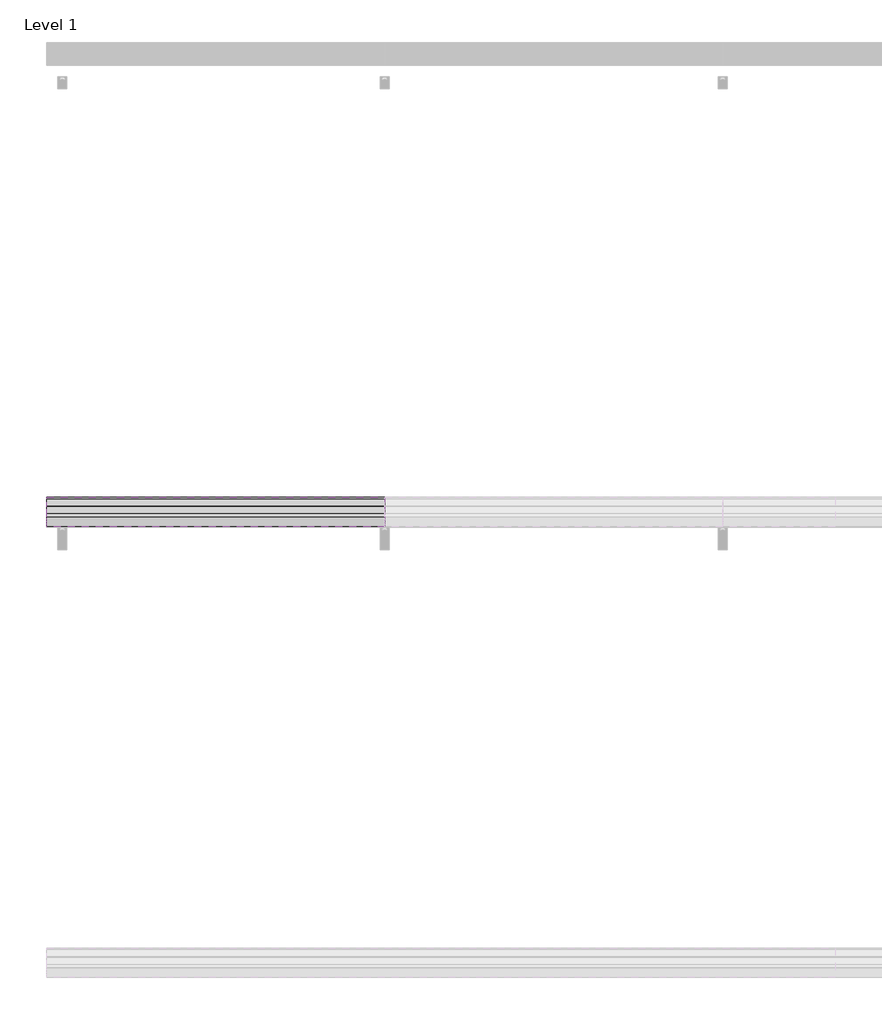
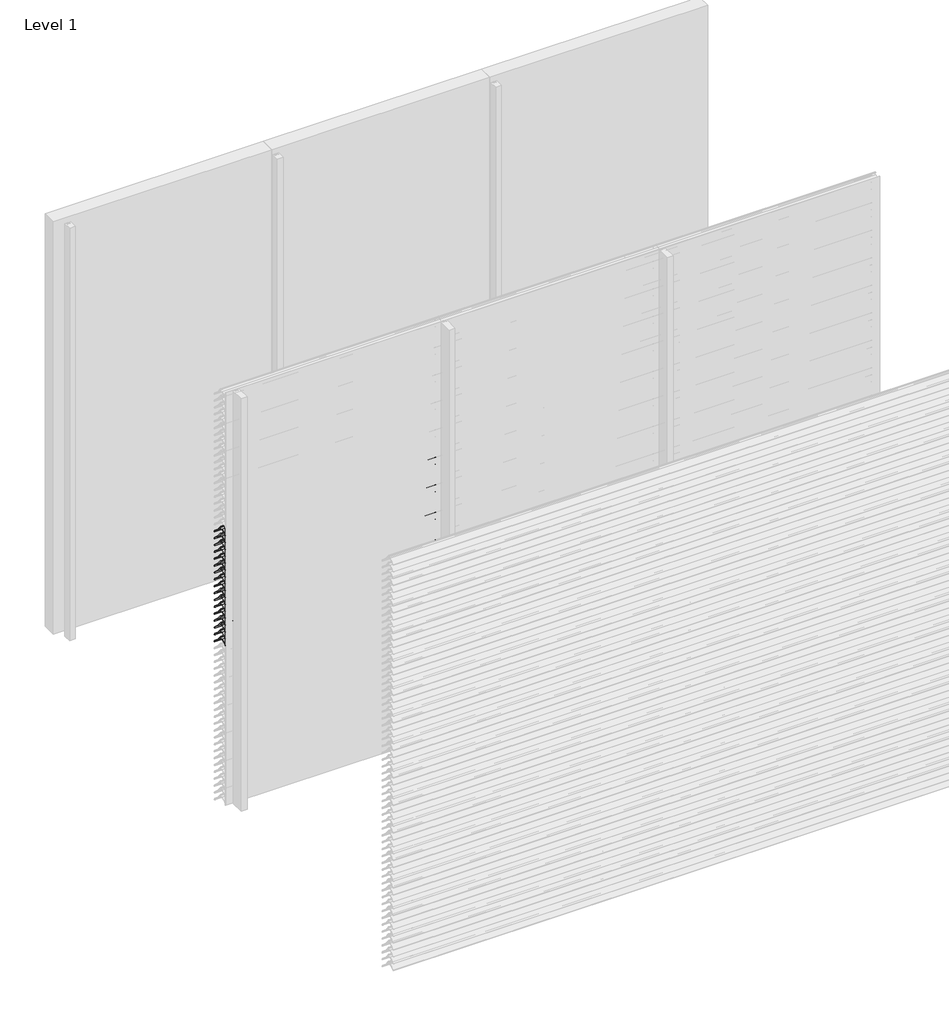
# One storey, part 59 of 173: 17 proxies.
"""IFC4 building model written with IfcOpenShell, lengths in millimetres."""

from ifc_helpers import new_model, si_unit, point, frame, frame_2d, origin, place, context, project, spatial, polyline, circle_curve, trimmed, segment, composite_curve, outline, extrude, element, save

model = new_model("IFC4")

# Units and contexts
model_context = context("Model", 3, world=origin())
ifc_project = project(units=[si_unit("LENGTHUNIT", "METRE", prefix="MILLI")], contexts=[model_context])

# Site, building, storey
site = spatial("IfcSite", under=ifc_project)
building = spatial("IfcBuilding", under=site)
storey = spatial("IfcBuildingStorey", under=building, Name="Level 1", Elevation=0.0)

# Proxies
placement = place(None, origin())
element("IfcBuildingElementProxy", 1, Name="Wall Sweeps", at=placement, inside=storey, context=model_context, shape_type="SweptSolid", body=[
    extrude(outline(composite_curve([segment(polyline([(-35998.0, 1959.1474905), (-35998.0, 1961.6227417)]), True, "CONTINUOUS"), segment(trimmed(circle_curve(frame_2d((-35951.2682172, 1916.2200208)), 65.1557103), [point((-35998.0, 1961.6227417))], [point((-35954.4014323, 1981.3003524))], False, "CARTESIAN"), True, "CONTINUOUS"), segment(polyline([(-35954.4014323, 1981.3003524), (-35934.8315836, 1981.3003524)]), True, "CONTINUOUS"), segment(trimmed(circle_curve(frame_2d((-35732.7329489, 2128.5533172)), 250.0545817), [point((-35934.8315836, 1981.3003524))], [point((-35941.4452143, 1990.8344583))], False, "CARTESIAN"), True, "CONTINUOUS"), segment(trimmed(circle_curve(frame_2d((-35953.2981792, 1985.1737835)), 13.1352966), [point((-35941.4452143, 1990.8344583))], [point((-35953.8171475, 1998.298824))], True, "CARTESIAN"), True, "CONTINUOUS"), segment(polyline([(-35953.8171475, 1998.298824), (-35953.8171475, 2000.0)]), True, "CONTINUOUS"), segment(trimmed(circle_curve(frame_2d((-35953.2981792, 1985.1737835)), 14.8352966), [point((-35953.8171475, 2000.0))], [point((-35939.9637661, 1991.6760487))], False, "CARTESIAN"), True, "CONTINUOUS"), segment(trimmed(circle_curve(frame_2d((-35732.7329489, 2128.5533172)), 248.3545817), [point((-35939.9637661, 1991.6760487))], [point((-35873.8787895, 1924.2059416))], True, "CARTESIAN"), True, "CONTINUOUS"), segment(trimmed(circle_curve(frame_2d((-35883.8147537, 1911.6649442)), 16.0), [point((-35873.8787895, 1924.2059416))], [point((-35867.8648347, 1910.4))], False, "CARTESIAN"), True, "CONTINUOUS"), segment(polyline([(-35867.8648347, 1910.4), (-35869.6712069, 1910.4)]), True, "CONTINUOUS"), segment(trimmed(circle_curve(frame_2d((-35883.8147537, 1911.6649442)), 14.2), [point((-35869.6712069, 1910.4))], [point((-35874.9518628, 1922.7594998))], True, "CARTESIAN"), True, "CONTINUOUS"), segment(trimmed(circle_curve(frame_2d((-35732.7329489, 2128.5533172)), 250.1545817), [point((-35874.9518628, 1922.7594998))], [point((-35933.7064024, 1979.6003524))], False, "CARTESIAN"), True, "CONTINUOUS"), segment(polyline([(-35933.7064024, 1979.6003524), (-35954.3602632, 1979.6003524)]), True, "CONTINUOUS"), segment(trimmed(circle_curve(frame_2d((-35951.2682172, 1916.2200208)), 63.4557103), [point((-35954.3602632, 1979.6003524))], [point((-35998.0, 1959.1474905))], True, "CARTESIAN"), True, "CONTINUOUS")], self_intersect=False)), frame((0.0, 0.0, 0.0), z_axis=(1.0, 0.0, 0.0), x_axis=(0.0, 1.0, 0.0)), (0.0, 0.0, 1.0), 1500.0),
])
element("IfcBuildingElementProxy", 2, Name="Wall Sweeps", at=placement, inside=storey, context=model_context, shape_type="SweptSolid", body=[
    extrude(outline(composite_curve([segment(polyline([(-35998.0, 1909.1474905), (-35998.0, 1911.6227417)]), True, "CONTINUOUS"), segment(trimmed(circle_curve(frame_2d((-35951.2682172, 1866.2200208)), 65.1557103), [point((-35998.0, 1911.6227417))], [point((-35954.4014323, 1931.3003524))], False, "CARTESIAN"), True, "CONTINUOUS"), segment(polyline([(-35954.4014323, 1931.3003524), (-35934.8315836, 1931.3003524)]), True, "CONTINUOUS"), segment(trimmed(circle_curve(frame_2d((-35732.7329489, 2078.5533172)), 250.0545817), [point((-35934.8315836, 1931.3003524))], [point((-35941.4452143, 1940.8344583))], False, "CARTESIAN"), True, "CONTINUOUS"), segment(trimmed(circle_curve(frame_2d((-35953.2981792, 1935.1737835)), 13.1352966), [point((-35941.4452143, 1940.8344583))], [point((-35953.8171475, 1948.298824))], True, "CARTESIAN"), True, "CONTINUOUS"), segment(polyline([(-35953.8171475, 1948.298824), (-35953.8171475, 1950.0)]), True, "CONTINUOUS"), segment(trimmed(circle_curve(frame_2d((-35953.2981792, 1935.1737835)), 14.8352966), [point((-35953.8171475, 1950.0))], [point((-35939.9637661, 1941.6760487))], False, "CARTESIAN"), True, "CONTINUOUS"), segment(trimmed(circle_curve(frame_2d((-35732.7329489, 2078.5533172)), 248.3545817), [point((-35939.9637661, 1941.6760487))], [point((-35873.8787895, 1874.2059416))], True, "CARTESIAN"), True, "CONTINUOUS"), segment(trimmed(circle_curve(frame_2d((-35883.8147537, 1861.6649442)), 16.0), [point((-35873.8787895, 1874.2059416))], [point((-35867.8648347, 1860.4))], False, "CARTESIAN"), True, "CONTINUOUS"), segment(polyline([(-35867.8648347, 1860.4), (-35869.6712069, 1860.4)]), True, "CONTINUOUS"), segment(trimmed(circle_curve(frame_2d((-35883.8147537, 1861.6649442)), 14.2), [point((-35869.6712069, 1860.4))], [point((-35874.9518628, 1872.7594998))], True, "CARTESIAN"), True, "CONTINUOUS"), segment(trimmed(circle_curve(frame_2d((-35732.7329489, 2078.5533172)), 250.1545817), [point((-35874.9518628, 1872.7594998))], [point((-35933.7064024, 1929.6003524))], False, "CARTESIAN"), True, "CONTINUOUS"), segment(polyline([(-35933.7064024, 1929.6003524), (-35954.3602632, 1929.6003524)]), True, "CONTINUOUS"), segment(trimmed(circle_curve(frame_2d((-35951.2682172, 1866.2200208)), 63.4557103), [point((-35954.3602632, 1929.6003524))], [point((-35998.0, 1909.1474905))], True, "CARTESIAN"), True, "CONTINUOUS")], self_intersect=False)), frame((0.0, 0.0, 0.0), z_axis=(1.0, 0.0, 0.0), x_axis=(0.0, 1.0, 0.0)), (0.0, 0.0, 1.0), 1500.0),
])
element("IfcBuildingElementProxy", 3, Name="Wall Sweeps", at=placement, inside=storey, context=model_context, shape_type="SweptSolid", body=[
    extrude(outline(composite_curve([segment(polyline([(-35998.0, 1859.1474905), (-35998.0, 1861.6227417)]), True, "CONTINUOUS"), segment(trimmed(circle_curve(frame_2d((-35951.2682172, 1816.2200208)), 65.1557103), [point((-35998.0, 1861.6227417))], [point((-35954.4014323, 1881.3003524))], False, "CARTESIAN"), True, "CONTINUOUS"), segment(polyline([(-35954.4014323, 1881.3003524), (-35934.8315836, 1881.3003524)]), True, "CONTINUOUS"), segment(trimmed(circle_curve(frame_2d((-35732.7329489, 2028.5533172)), 250.0545817), [point((-35934.8315836, 1881.3003524))], [point((-35941.4452143, 1890.8344583))], False, "CARTESIAN"), True, "CONTINUOUS"), segment(trimmed(circle_curve(frame_2d((-35953.2981792, 1885.1737835)), 13.1352966), [point((-35941.4452143, 1890.8344583))], [point((-35953.8171475, 1898.298824))], True, "CARTESIAN"), True, "CONTINUOUS"), segment(polyline([(-35953.8171475, 1898.298824), (-35953.8171475, 1900.0)]), True, "CONTINUOUS"), segment(trimmed(circle_curve(frame_2d((-35953.2981792, 1885.1737835)), 14.8352966), [point((-35953.8171475, 1900.0))], [point((-35939.9637661, 1891.6760487))], False, "CARTESIAN"), True, "CONTINUOUS"), segment(trimmed(circle_curve(frame_2d((-35732.7329489, 2028.5533172)), 248.3545817), [point((-35939.9637661, 1891.6760487))], [point((-35873.8787895, 1824.2059416))], True, "CARTESIAN"), True, "CONTINUOUS"), segment(trimmed(circle_curve(frame_2d((-35883.8147537, 1811.6649442)), 16.0), [point((-35873.8787895, 1824.2059416))], [point((-35867.8648347, 1810.4))], False, "CARTESIAN"), True, "CONTINUOUS"), segment(polyline([(-35867.8648347, 1810.4), (-35869.6712069, 1810.4)]), True, "CONTINUOUS"), segment(trimmed(circle_curve(frame_2d((-35883.8147537, 1811.6649442)), 14.2), [point((-35869.6712069, 1810.4))], [point((-35874.9518628, 1822.7594998))], True, "CARTESIAN"), True, "CONTINUOUS"), segment(trimmed(circle_curve(frame_2d((-35732.7329489, 2028.5533172)), 250.1545817), [point((-35874.9518628, 1822.7594998))], [point((-35933.7064024, 1879.6003524))], False, "CARTESIAN"), True, "CONTINUOUS"), segment(polyline([(-35933.7064024, 1879.6003524), (-35954.3602632, 1879.6003524)]), True, "CONTINUOUS"), segment(trimmed(circle_curve(frame_2d((-35951.2682172, 1816.2200208)), 63.4557103), [point((-35954.3602632, 1879.6003524))], [point((-35998.0, 1859.1474905))], True, "CARTESIAN"), True, "CONTINUOUS")], self_intersect=False)), frame((0.0, 0.0, 0.0), z_axis=(1.0, 0.0, 0.0), x_axis=(0.0, 1.0, 0.0)), (0.0, 0.0, 1.0), 1500.0),
])
element("IfcBuildingElementProxy", 4, Name="Wall Sweeps", at=placement, inside=storey, context=model_context, shape_type="SweptSolid", body=[
    extrude(outline(composite_curve([segment(polyline([(-35998.0, 1809.1474905), (-35998.0, 1811.6227417)]), True, "CONTINUOUS"), segment(trimmed(circle_curve(frame_2d((-35951.2682172, 1766.2200208)), 65.1557103), [point((-35998.0, 1811.6227417))], [point((-35954.4014323, 1831.3003524))], False, "CARTESIAN"), True, "CONTINUOUS"), segment(polyline([(-35954.4014323, 1831.3003524), (-35934.8315836, 1831.3003524)]), True, "CONTINUOUS"), segment(trimmed(circle_curve(frame_2d((-35732.7329489, 1978.5533172)), 250.0545817), [point((-35934.8315836, 1831.3003524))], [point((-35941.4452143, 1840.8344583))], False, "CARTESIAN"), True, "CONTINUOUS"), segment(trimmed(circle_curve(frame_2d((-35953.2981792, 1835.1737835)), 13.1352966), [point((-35941.4452143, 1840.8344583))], [point((-35953.8171475, 1848.298824))], True, "CARTESIAN"), True, "CONTINUOUS"), segment(polyline([(-35953.8171475, 1848.298824), (-35953.8171475, 1850.0)]), True, "CONTINUOUS"), segment(trimmed(circle_curve(frame_2d((-35953.2981792, 1835.1737835)), 14.8352966), [point((-35953.8171475, 1850.0))], [point((-35939.9637661, 1841.6760487))], False, "CARTESIAN"), True, "CONTINUOUS"), segment(trimmed(circle_curve(frame_2d((-35732.7329489, 1978.5533172)), 248.3545817), [point((-35939.9637661, 1841.6760487))], [point((-35873.8787895, 1774.2059416))], True, "CARTESIAN"), True, "CONTINUOUS"), segment(trimmed(circle_curve(frame_2d((-35883.8147537, 1761.6649442)), 16.0), [point((-35873.8787895, 1774.2059416))], [point((-35867.8648347, 1760.4))], False, "CARTESIAN"), True, "CONTINUOUS"), segment(polyline([(-35867.8648347, 1760.4), (-35869.6712069, 1760.4)]), True, "CONTINUOUS"), segment(trimmed(circle_curve(frame_2d((-35883.8147537, 1761.6649442)), 14.2), [point((-35869.6712069, 1760.4))], [point((-35874.9518628, 1772.7594998))], True, "CARTESIAN"), True, "CONTINUOUS"), segment(trimmed(circle_curve(frame_2d((-35732.7329489, 1978.5533172)), 250.1545817), [point((-35874.9518628, 1772.7594998))], [point((-35933.7064024, 1829.6003524))], False, "CARTESIAN"), True, "CONTINUOUS"), segment(polyline([(-35933.7064024, 1829.6003524), (-35954.3602632, 1829.6003524)]), True, "CONTINUOUS"), segment(trimmed(circle_curve(frame_2d((-35951.2682172, 1766.2200208)), 63.4557103), [point((-35954.3602632, 1829.6003524))], [point((-35998.0, 1809.1474905))], True, "CARTESIAN"), True, "CONTINUOUS")], self_intersect=False)), frame((0.0, 0.0, 0.0), z_axis=(1.0, 0.0, 0.0), x_axis=(0.0, 1.0, 0.0)), (0.0, 0.0, 1.0), 1500.0),
])
element("IfcBuildingElementProxy", 5, Name="Wall Sweeps", at=placement, inside=storey, context=model_context, shape_type="SweptSolid", body=[
    extrude(outline(composite_curve([segment(polyline([(-35998.0, 1759.1474905), (-35998.0, 1761.6227417)]), True, "CONTINUOUS"), segment(trimmed(circle_curve(frame_2d((-35951.2682172, 1716.2200208)), 65.1557103), [point((-35998.0, 1761.6227417))], [point((-35954.4014323, 1781.3003524))], False, "CARTESIAN"), True, "CONTINUOUS"), segment(polyline([(-35954.4014323, 1781.3003524), (-35934.8315836, 1781.3003524)]), True, "CONTINUOUS"), segment(trimmed(circle_curve(frame_2d((-35732.7329489, 1928.5533172)), 250.0545817), [point((-35934.8315836, 1781.3003524))], [point((-35941.4452143, 1790.8344583))], False, "CARTESIAN"), True, "CONTINUOUS"), segment(trimmed(circle_curve(frame_2d((-35953.2981792, 1785.1737835)), 13.1352966), [point((-35941.4452143, 1790.8344583))], [point((-35953.8171475, 1798.298824))], True, "CARTESIAN"), True, "CONTINUOUS"), segment(polyline([(-35953.8171475, 1798.298824), (-35953.8171475, 1800.0)]), True, "CONTINUOUS"), segment(trimmed(circle_curve(frame_2d((-35953.2981792, 1785.1737835)), 14.8352966), [point((-35953.8171475, 1800.0))], [point((-35939.9637661, 1791.6760487))], False, "CARTESIAN"), True, "CONTINUOUS"), segment(trimmed(circle_curve(frame_2d((-35732.7329489, 1928.5533172)), 248.3545817), [point((-35939.9637661, 1791.6760487))], [point((-35873.8787895, 1724.2059416))], True, "CARTESIAN"), True, "CONTINUOUS"), segment(trimmed(circle_curve(frame_2d((-35883.8147537, 1711.6649442)), 16.0), [point((-35873.8787895, 1724.2059416))], [point((-35867.8648347, 1710.4))], False, "CARTESIAN"), True, "CONTINUOUS"), segment(polyline([(-35867.8648347, 1710.4), (-35869.6712069, 1710.4)]), True, "CONTINUOUS"), segment(trimmed(circle_curve(frame_2d((-35883.8147537, 1711.6649442)), 14.2), [point((-35869.6712069, 1710.4))], [point((-35874.9518628, 1722.7594998))], True, "CARTESIAN"), True, "CONTINUOUS"), segment(trimmed(circle_curve(frame_2d((-35732.7329489, 1928.5533172)), 250.1545817), [point((-35874.9518628, 1722.7594998))], [point((-35933.7064024, 1779.6003524))], False, "CARTESIAN"), True, "CONTINUOUS"), segment(polyline([(-35933.7064024, 1779.6003524), (-35954.3602632, 1779.6003524)]), True, "CONTINUOUS"), segment(trimmed(circle_curve(frame_2d((-35951.2682172, 1716.2200208)), 63.4557103), [point((-35954.3602632, 1779.6003524))], [point((-35998.0, 1759.1474905))], True, "CARTESIAN"), True, "CONTINUOUS")], self_intersect=False)), frame((0.0, 0.0, 0.0), z_axis=(1.0, 0.0, 0.0), x_axis=(0.0, 1.0, 0.0)), (0.0, 0.0, 1.0), 1500.0),
])
element("IfcBuildingElementProxy", 6, Name="Wall Sweeps", at=placement, inside=storey, context=model_context, shape_type="SweptSolid", body=[
    extrude(outline(composite_curve([segment(polyline([(-35998.0, 1709.1474905), (-35998.0, 1711.6227417)]), True, "CONTINUOUS"), segment(trimmed(circle_curve(frame_2d((-35951.2682172, 1666.2200208)), 65.1557103), [point((-35998.0, 1711.6227417))], [point((-35954.4014323, 1731.3003524))], False, "CARTESIAN"), True, "CONTINUOUS"), segment(polyline([(-35954.4014323, 1731.3003524), (-35934.8315836, 1731.3003524)]), True, "CONTINUOUS"), segment(trimmed(circle_curve(frame_2d((-35732.7329489, 1878.5533172)), 250.0545817), [point((-35934.8315836, 1731.3003524))], [point((-35941.4452143, 1740.8344583))], False, "CARTESIAN"), True, "CONTINUOUS"), segment(trimmed(circle_curve(frame_2d((-35953.2981792, 1735.1737835)), 13.1352966), [point((-35941.4452143, 1740.8344583))], [point((-35953.8171475, 1748.298824))], True, "CARTESIAN"), True, "CONTINUOUS"), segment(polyline([(-35953.8171475, 1748.298824), (-35953.8171475, 1750.0)]), True, "CONTINUOUS"), segment(trimmed(circle_curve(frame_2d((-35953.2981792, 1735.1737835)), 14.8352966), [point((-35953.8171475, 1750.0))], [point((-35939.9637661, 1741.6760487))], False, "CARTESIAN"), True, "CONTINUOUS"), segment(trimmed(circle_curve(frame_2d((-35732.7329489, 1878.5533172)), 248.3545817), [point((-35939.9637661, 1741.6760487))], [point((-35873.8787895, 1674.2059416))], True, "CARTESIAN"), True, "CONTINUOUS"), segment(trimmed(circle_curve(frame_2d((-35883.8147537, 1661.6649442)), 16.0), [point((-35873.8787895, 1674.2059416))], [point((-35867.8648347, 1660.4))], False, "CARTESIAN"), True, "CONTINUOUS"), segment(polyline([(-35867.8648347, 1660.4), (-35869.6712069, 1660.4)]), True, "CONTINUOUS"), segment(trimmed(circle_curve(frame_2d((-35883.8147537, 1661.6649442)), 14.2), [point((-35869.6712069, 1660.4))], [point((-35874.9518628, 1672.7594998))], True, "CARTESIAN"), True, "CONTINUOUS"), segment(trimmed(circle_curve(frame_2d((-35732.7329489, 1878.5533172)), 250.1545817), [point((-35874.9518628, 1672.7594998))], [point((-35933.7064024, 1729.6003524))], False, "CARTESIAN"), True, "CONTINUOUS"), segment(polyline([(-35933.7064024, 1729.6003524), (-35954.3602632, 1729.6003524)]), True, "CONTINUOUS"), segment(trimmed(circle_curve(frame_2d((-35951.2682172, 1666.2200208)), 63.4557103), [point((-35954.3602632, 1729.6003524))], [point((-35998.0, 1709.1474905))], True, "CARTESIAN"), True, "CONTINUOUS")], self_intersect=False)), frame((0.0, 0.0, 0.0), z_axis=(1.0, 0.0, 0.0), x_axis=(0.0, 1.0, 0.0)), (0.0, 0.0, 1.0), 1500.0),
])
element("IfcBuildingElementProxy", 7, Name="Wall Sweeps", at=placement, inside=storey, context=model_context, shape_type="SweptSolid", body=[
    extrude(outline(composite_curve([segment(polyline([(-35998.0, 1659.1474905), (-35998.0, 1661.6227417)]), True, "CONTINUOUS"), segment(trimmed(circle_curve(frame_2d((-35951.2682172, 1616.2200208)), 65.1557103), [point((-35998.0, 1661.6227417))], [point((-35954.4014323, 1681.3003524))], False, "CARTESIAN"), True, "CONTINUOUS"), segment(polyline([(-35954.4014323, 1681.3003524), (-35934.8315836, 1681.3003524)]), True, "CONTINUOUS"), segment(trimmed(circle_curve(frame_2d((-35732.7329489, 1828.5533172)), 250.0545817), [point((-35934.8315836, 1681.3003524))], [point((-35941.4452143, 1690.8344583))], False, "CARTESIAN"), True, "CONTINUOUS"), segment(trimmed(circle_curve(frame_2d((-35953.2981792, 1685.1737835)), 13.1352966), [point((-35941.4452143, 1690.8344583))], [point((-35953.8171475, 1698.298824))], True, "CARTESIAN"), True, "CONTINUOUS"), segment(polyline([(-35953.8171475, 1698.298824), (-35953.8171475, 1700.0)]), True, "CONTINUOUS"), segment(trimmed(circle_curve(frame_2d((-35953.2981792, 1685.1737835)), 14.8352966), [point((-35953.8171475, 1700.0))], [point((-35939.9637661, 1691.6760487))], False, "CARTESIAN"), True, "CONTINUOUS"), segment(trimmed(circle_curve(frame_2d((-35732.7329489, 1828.5533172)), 248.3545817), [point((-35939.9637661, 1691.6760487))], [point((-35873.8787895, 1624.2059416))], True, "CARTESIAN"), True, "CONTINUOUS"), segment(trimmed(circle_curve(frame_2d((-35883.8147537, 1611.6649442)), 16.0), [point((-35873.8787895, 1624.2059416))], [point((-35867.8648347, 1610.4))], False, "CARTESIAN"), True, "CONTINUOUS"), segment(polyline([(-35867.8648347, 1610.4), (-35869.6712069, 1610.4)]), True, "CONTINUOUS"), segment(trimmed(circle_curve(frame_2d((-35883.8147537, 1611.6649442)), 14.2), [point((-35869.6712069, 1610.4))], [point((-35874.9518628, 1622.7594998))], True, "CARTESIAN"), True, "CONTINUOUS"), segment(trimmed(circle_curve(frame_2d((-35732.7329489, 1828.5533172)), 250.1545817), [point((-35874.9518628, 1622.7594998))], [point((-35933.7064024, 1679.6003524))], False, "CARTESIAN"), True, "CONTINUOUS"), segment(polyline([(-35933.7064024, 1679.6003524), (-35954.3602632, 1679.6003524)]), True, "CONTINUOUS"), segment(trimmed(circle_curve(frame_2d((-35951.2682172, 1616.2200208)), 63.4557103), [point((-35954.3602632, 1679.6003524))], [point((-35998.0, 1659.1474905))], True, "CARTESIAN"), True, "CONTINUOUS")], self_intersect=False)), frame((0.0, 0.0, 0.0), z_axis=(1.0, 0.0, 0.0), x_axis=(0.0, 1.0, 0.0)), (0.0, 0.0, 1.0), 1500.0),
])
element("IfcBuildingElementProxy", 8, Name="Wall Sweeps", at=placement, inside=storey, context=model_context, shape_type="SweptSolid", body=[
    extrude(outline(composite_curve([segment(polyline([(-35998.0, 1609.1474905), (-35998.0, 1611.6227417)]), True, "CONTINUOUS"), segment(trimmed(circle_curve(frame_2d((-35951.2682172, 1566.2200208)), 65.1557103), [point((-35998.0, 1611.6227417))], [point((-35954.4014323, 1631.3003524))], False, "CARTESIAN"), True, "CONTINUOUS"), segment(polyline([(-35954.4014323, 1631.3003524), (-35934.8315836, 1631.3003524)]), True, "CONTINUOUS"), segment(trimmed(circle_curve(frame_2d((-35732.7329489, 1778.5533172)), 250.0545817), [point((-35934.8315836, 1631.3003524))], [point((-35941.4452143, 1640.8344583))], False, "CARTESIAN"), True, "CONTINUOUS"), segment(trimmed(circle_curve(frame_2d((-35953.2981792, 1635.1737835)), 13.1352966), [point((-35941.4452143, 1640.8344583))], [point((-35953.8171475, 1648.298824))], True, "CARTESIAN"), True, "CONTINUOUS"), segment(polyline([(-35953.8171475, 1648.298824), (-35953.8171475, 1650.0)]), True, "CONTINUOUS"), segment(trimmed(circle_curve(frame_2d((-35953.2981792, 1635.1737835)), 14.8352966), [point((-35953.8171475, 1650.0))], [point((-35939.9637661, 1641.6760487))], False, "CARTESIAN"), True, "CONTINUOUS"), segment(trimmed(circle_curve(frame_2d((-35732.7329489, 1778.5533172)), 248.3545817), [point((-35939.9637661, 1641.6760487))], [point((-35873.8787895, 1574.2059416))], True, "CARTESIAN"), True, "CONTINUOUS"), segment(trimmed(circle_curve(frame_2d((-35883.8147537, 1561.6649442)), 16.0), [point((-35873.8787895, 1574.2059416))], [point((-35867.8648347, 1560.4))], False, "CARTESIAN"), True, "CONTINUOUS"), segment(polyline([(-35867.8648347, 1560.4), (-35869.6712069, 1560.4)]), True, "CONTINUOUS"), segment(trimmed(circle_curve(frame_2d((-35883.8147537, 1561.6649442)), 14.2), [point((-35869.6712069, 1560.4))], [point((-35874.9518628, 1572.7594998))], True, "CARTESIAN"), True, "CONTINUOUS"), segment(trimmed(circle_curve(frame_2d((-35732.7329489, 1778.5533172)), 250.1545817), [point((-35874.9518628, 1572.7594998))], [point((-35933.7064024, 1629.6003524))], False, "CARTESIAN"), True, "CONTINUOUS"), segment(polyline([(-35933.7064024, 1629.6003524), (-35954.3602632, 1629.6003524)]), True, "CONTINUOUS"), segment(trimmed(circle_curve(frame_2d((-35951.2682172, 1566.2200208)), 63.4557103), [point((-35954.3602632, 1629.6003524))], [point((-35998.0, 1609.1474905))], True, "CARTESIAN"), True, "CONTINUOUS")], self_intersect=False)), frame((0.0, 0.0, 0.0), z_axis=(1.0, 0.0, 0.0), x_axis=(0.0, 1.0, 0.0)), (0.0, 0.0, 1.0), 1500.0),
])
element("IfcBuildingElementProxy", 9, Name="Wall Sweeps", at=placement, inside=storey, context=model_context, shape_type="SweptSolid", body=[
    extrude(outline(composite_curve([segment(polyline([(-35998.0, 1559.1474905), (-35998.0, 1561.6227417)]), True, "CONTINUOUS"), segment(trimmed(circle_curve(frame_2d((-35951.2682172, 1516.2200208)), 65.1557103), [point((-35998.0, 1561.6227417))], [point((-35954.4014323, 1581.3003524))], False, "CARTESIAN"), True, "CONTINUOUS"), segment(polyline([(-35954.4014323, 1581.3003524), (-35934.8315836, 1581.3003524)]), True, "CONTINUOUS"), segment(trimmed(circle_curve(frame_2d((-35732.7329489, 1728.5533172)), 250.0545817), [point((-35934.8315836, 1581.3003524))], [point((-35941.4452143, 1590.8344583))], False, "CARTESIAN"), True, "CONTINUOUS"), segment(trimmed(circle_curve(frame_2d((-35953.2981792, 1585.1737835)), 13.1352966), [point((-35941.4452143, 1590.8344583))], [point((-35953.8171475, 1598.298824))], True, "CARTESIAN"), True, "CONTINUOUS"), segment(polyline([(-35953.8171475, 1598.298824), (-35953.8171475, 1600.0)]), True, "CONTINUOUS"), segment(trimmed(circle_curve(frame_2d((-35953.2981792, 1585.1737835)), 14.8352966), [point((-35953.8171475, 1600.0))], [point((-35939.9637661, 1591.6760487))], False, "CARTESIAN"), True, "CONTINUOUS"), segment(trimmed(circle_curve(frame_2d((-35732.7329489, 1728.5533172)), 248.3545817), [point((-35939.9637661, 1591.6760487))], [point((-35873.8787895, 1524.2059416))], True, "CARTESIAN"), True, "CONTINUOUS"), segment(trimmed(circle_curve(frame_2d((-35883.8147537, 1511.6649442)), 16.0), [point((-35873.8787895, 1524.2059416))], [point((-35867.8648347, 1510.4))], False, "CARTESIAN"), True, "CONTINUOUS"), segment(polyline([(-35867.8648347, 1510.4), (-35869.6712069, 1510.4)]), True, "CONTINUOUS"), segment(trimmed(circle_curve(frame_2d((-35883.8147537, 1511.6649442)), 14.2), [point((-35869.6712069, 1510.4))], [point((-35874.9518628, 1522.7594998))], True, "CARTESIAN"), True, "CONTINUOUS"), segment(trimmed(circle_curve(frame_2d((-35732.7329489, 1728.5533172)), 250.1545817), [point((-35874.9518628, 1522.7594998))], [point((-35933.7064024, 1579.6003524))], False, "CARTESIAN"), True, "CONTINUOUS"), segment(polyline([(-35933.7064024, 1579.6003524), (-35954.3602632, 1579.6003524)]), True, "CONTINUOUS"), segment(trimmed(circle_curve(frame_2d((-35951.2682172, 1516.2200208)), 63.4557103), [point((-35954.3602632, 1579.6003524))], [point((-35998.0, 1559.1474905))], True, "CARTESIAN"), True, "CONTINUOUS")], self_intersect=False)), frame((0.0, 0.0, 0.0), z_axis=(1.0, 0.0, 0.0), x_axis=(0.0, 1.0, 0.0)), (0.0, 0.0, 1.0), 1500.0),
])
element("IfcBuildingElementProxy", 10, Name="Wall Sweeps", at=placement, inside=storey, context=model_context, shape_type="SweptSolid", body=[
    extrude(outline(composite_curve([segment(polyline([(-35998.0, 1509.1474905), (-35998.0, 1511.6227417)]), True, "CONTINUOUS"), segment(trimmed(circle_curve(frame_2d((-35951.2682172, 1466.2200208)), 65.1557103), [point((-35998.0, 1511.6227417))], [point((-35954.4014323, 1531.3003524))], False, "CARTESIAN"), True, "CONTINUOUS"), segment(polyline([(-35954.4014323, 1531.3003524), (-35934.8315836, 1531.3003524)]), True, "CONTINUOUS"), segment(trimmed(circle_curve(frame_2d((-35732.7329489, 1678.5533172)), 250.0545817), [point((-35934.8315836, 1531.3003524))], [point((-35941.4452143, 1540.8344583))], False, "CARTESIAN"), True, "CONTINUOUS"), segment(trimmed(circle_curve(frame_2d((-35953.2981792, 1535.1737835)), 13.1352966), [point((-35941.4452143, 1540.8344583))], [point((-35953.8171475, 1548.298824))], True, "CARTESIAN"), True, "CONTINUOUS"), segment(polyline([(-35953.8171475, 1548.298824), (-35953.8171475, 1550.0)]), True, "CONTINUOUS"), segment(trimmed(circle_curve(frame_2d((-35953.2981792, 1535.1737835)), 14.8352966), [point((-35953.8171475, 1550.0))], [point((-35939.9637661, 1541.6760487))], False, "CARTESIAN"), True, "CONTINUOUS"), segment(trimmed(circle_curve(frame_2d((-35732.7329489, 1678.5533172)), 248.3545817), [point((-35939.9637661, 1541.6760487))], [point((-35873.8787895, 1474.2059416))], True, "CARTESIAN"), True, "CONTINUOUS"), segment(trimmed(circle_curve(frame_2d((-35883.8147537, 1461.6649442)), 16.0), [point((-35873.8787895, 1474.2059416))], [point((-35867.8648347, 1460.4))], False, "CARTESIAN"), True, "CONTINUOUS"), segment(polyline([(-35867.8648347, 1460.4), (-35869.6712069, 1460.4)]), True, "CONTINUOUS"), segment(trimmed(circle_curve(frame_2d((-35883.8147537, 1461.6649442)), 14.2), [point((-35869.6712069, 1460.4))], [point((-35874.9518628, 1472.7594998))], True, "CARTESIAN"), True, "CONTINUOUS"), segment(trimmed(circle_curve(frame_2d((-35732.7329489, 1678.5533172)), 250.1545817), [point((-35874.9518628, 1472.7594998))], [point((-35933.7064024, 1529.6003524))], False, "CARTESIAN"), True, "CONTINUOUS"), segment(polyline([(-35933.7064024, 1529.6003524), (-35954.3602632, 1529.6003524)]), True, "CONTINUOUS"), segment(trimmed(circle_curve(frame_2d((-35951.2682172, 1466.2200208)), 63.4557103), [point((-35954.3602632, 1529.6003524))], [point((-35998.0, 1509.1474905))], True, "CARTESIAN"), True, "CONTINUOUS")], self_intersect=False)), frame((0.0, 0.0, 0.0), z_axis=(1.0, 0.0, 0.0), x_axis=(0.0, 1.0, 0.0)), (0.0, 0.0, 1.0), 1500.0),
])
element("IfcBuildingElementProxy", 11, Name="Wall Sweeps", at=placement, inside=storey, context=model_context, shape_type="SweptSolid", body=[
    extrude(outline(composite_curve([segment(polyline([(-35998.0, 1459.1474905), (-35998.0, 1461.6227417)]), True, "CONTINUOUS"), segment(trimmed(circle_curve(frame_2d((-35951.2682172, 1416.2200208)), 65.1557103), [point((-35998.0, 1461.6227417))], [point((-35954.4014323, 1481.3003524))], False, "CARTESIAN"), True, "CONTINUOUS"), segment(polyline([(-35954.4014323, 1481.3003524), (-35934.8315836, 1481.3003524)]), True, "CONTINUOUS"), segment(trimmed(circle_curve(frame_2d((-35732.7329489, 1628.5533172)), 250.0545817), [point((-35934.8315836, 1481.3003524))], [point((-35941.4452143, 1490.8344583))], False, "CARTESIAN"), True, "CONTINUOUS"), segment(trimmed(circle_curve(frame_2d((-35953.2981792, 1485.1737835)), 13.1352966), [point((-35941.4452143, 1490.8344583))], [point((-35953.8171475, 1498.298824))], True, "CARTESIAN"), True, "CONTINUOUS"), segment(polyline([(-35953.8171475, 1498.298824), (-35953.8171475, 1500.0)]), True, "CONTINUOUS"), segment(trimmed(circle_curve(frame_2d((-35953.2981792, 1485.1737835)), 14.8352966), [point((-35953.8171475, 1500.0))], [point((-35939.9637661, 1491.6760487))], False, "CARTESIAN"), True, "CONTINUOUS"), segment(trimmed(circle_curve(frame_2d((-35732.7329489, 1628.5533172)), 248.3545817), [point((-35939.9637661, 1491.6760487))], [point((-35873.8787895, 1424.2059416))], True, "CARTESIAN"), True, "CONTINUOUS"), segment(trimmed(circle_curve(frame_2d((-35883.8147537, 1411.6649442)), 16.0), [point((-35873.8787895, 1424.2059416))], [point((-35867.8648347, 1410.4))], False, "CARTESIAN"), True, "CONTINUOUS"), segment(polyline([(-35867.8648347, 1410.4), (-35869.6712069, 1410.4)]), True, "CONTINUOUS"), segment(trimmed(circle_curve(frame_2d((-35883.8147537, 1411.6649442)), 14.2), [point((-35869.6712069, 1410.4))], [point((-35874.9518628, 1422.7594998))], True, "CARTESIAN"), True, "CONTINUOUS"), segment(trimmed(circle_curve(frame_2d((-35732.7329489, 1628.5533172)), 250.1545817), [point((-35874.9518628, 1422.7594998))], [point((-35933.7064024, 1479.6003524))], False, "CARTESIAN"), True, "CONTINUOUS"), segment(polyline([(-35933.7064024, 1479.6003524), (-35954.3602632, 1479.6003524)]), True, "CONTINUOUS"), segment(trimmed(circle_curve(frame_2d((-35951.2682172, 1416.2200208)), 63.4557103), [point((-35954.3602632, 1479.6003524))], [point((-35998.0, 1459.1474905))], True, "CARTESIAN"), True, "CONTINUOUS")], self_intersect=False)), frame((0.0, 0.0, 0.0), z_axis=(1.0, 0.0, 0.0), x_axis=(0.0, 1.0, 0.0)), (0.0, 0.0, 1.0), 1500.0),
])
element("IfcBuildingElementProxy", 12, Name="Wall Sweeps", at=placement, inside=storey, context=model_context, shape_type="SweptSolid", body=[
    extrude(outline(composite_curve([segment(polyline([(-35998.0, 1409.1474905), (-35998.0, 1411.6227417)]), True, "CONTINUOUS"), segment(trimmed(circle_curve(frame_2d((-35951.2682172, 1366.2200208)), 65.1557103), [point((-35998.0, 1411.6227417))], [point((-35954.4014323, 1431.3003524))], False, "CARTESIAN"), True, "CONTINUOUS"), segment(polyline([(-35954.4014323, 1431.3003524), (-35934.8315836, 1431.3003524)]), True, "CONTINUOUS"), segment(trimmed(circle_curve(frame_2d((-35732.7329489, 1578.5533172)), 250.0545817), [point((-35934.8315836, 1431.3003524))], [point((-35941.4452143, 1440.8344583))], False, "CARTESIAN"), True, "CONTINUOUS"), segment(trimmed(circle_curve(frame_2d((-35953.2981792, 1435.1737835)), 13.1352966), [point((-35941.4452143, 1440.8344583))], [point((-35953.8171475, 1448.298824))], True, "CARTESIAN"), True, "CONTINUOUS"), segment(polyline([(-35953.8171475, 1448.298824), (-35953.8171475, 1450.0)]), True, "CONTINUOUS"), segment(trimmed(circle_curve(frame_2d((-35953.2981792, 1435.1737835)), 14.8352966), [point((-35953.8171475, 1450.0))], [point((-35939.9637661, 1441.6760487))], False, "CARTESIAN"), True, "CONTINUOUS"), segment(trimmed(circle_curve(frame_2d((-35732.7329489, 1578.5533172)), 248.3545817), [point((-35939.9637661, 1441.6760487))], [point((-35873.8787895, 1374.2059416))], True, "CARTESIAN"), True, "CONTINUOUS"), segment(trimmed(circle_curve(frame_2d((-35883.8147537, 1361.6649442)), 16.0), [point((-35873.8787895, 1374.2059416))], [point((-35867.8648347, 1360.4))], False, "CARTESIAN"), True, "CONTINUOUS"), segment(polyline([(-35867.8648347, 1360.4), (-35869.6712069, 1360.4)]), True, "CONTINUOUS"), segment(trimmed(circle_curve(frame_2d((-35883.8147537, 1361.6649442)), 14.2), [point((-35869.6712069, 1360.4))], [point((-35874.9518628, 1372.7594998))], True, "CARTESIAN"), True, "CONTINUOUS"), segment(trimmed(circle_curve(frame_2d((-35732.7329489, 1578.5533172)), 250.1545817), [point((-35874.9518628, 1372.7594998))], [point((-35933.7064024, 1429.6003524))], False, "CARTESIAN"), True, "CONTINUOUS"), segment(polyline([(-35933.7064024, 1429.6003524), (-35954.3602632, 1429.6003524)]), True, "CONTINUOUS"), segment(trimmed(circle_curve(frame_2d((-35951.2682172, 1366.2200208)), 63.4557103), [point((-35954.3602632, 1429.6003524))], [point((-35998.0, 1409.1474905))], True, "CARTESIAN"), True, "CONTINUOUS")], self_intersect=False)), frame((0.0, 0.0, 0.0), z_axis=(1.0, 0.0, 0.0), x_axis=(0.0, 1.0, 0.0)), (0.0, 0.0, 1.0), 1500.0),
])
element("IfcBuildingElementProxy", 13, Name="Wall Sweeps", at=placement, inside=storey, context=model_context, shape_type="SweptSolid", body=[
    extrude(outline(composite_curve([segment(polyline([(-35998.0, 1359.1474905), (-35998.0, 1361.6227417)]), True, "CONTINUOUS"), segment(trimmed(circle_curve(frame_2d((-35951.2682172, 1316.2200208)), 65.1557103), [point((-35998.0, 1361.6227417))], [point((-35954.4014323, 1381.3003524))], False, "CARTESIAN"), True, "CONTINUOUS"), segment(polyline([(-35954.4014323, 1381.3003524), (-35934.8315836, 1381.3003524)]), True, "CONTINUOUS"), segment(trimmed(circle_curve(frame_2d((-35732.7329489, 1528.5533172)), 250.0545817), [point((-35934.8315836, 1381.3003524))], [point((-35941.4452143, 1390.8344583))], False, "CARTESIAN"), True, "CONTINUOUS"), segment(trimmed(circle_curve(frame_2d((-35953.2981792, 1385.1737835)), 13.1352966), [point((-35941.4452143, 1390.8344583))], [point((-35953.8171475, 1398.298824))], True, "CARTESIAN"), True, "CONTINUOUS"), segment(polyline([(-35953.8171475, 1398.298824), (-35953.8171475, 1400.0)]), True, "CONTINUOUS"), segment(trimmed(circle_curve(frame_2d((-35953.2981792, 1385.1737835)), 14.8352966), [point((-35953.8171475, 1400.0))], [point((-35939.9637661, 1391.6760487))], False, "CARTESIAN"), True, "CONTINUOUS"), segment(trimmed(circle_curve(frame_2d((-35732.7329489, 1528.5533172)), 248.3545817), [point((-35939.9637661, 1391.6760487))], [point((-35873.8787895, 1324.2059416))], True, "CARTESIAN"), True, "CONTINUOUS"), segment(trimmed(circle_curve(frame_2d((-35883.8147537, 1311.6649442)), 16.0), [point((-35873.8787895, 1324.2059416))], [point((-35867.8648347, 1310.4))], False, "CARTESIAN"), True, "CONTINUOUS"), segment(polyline([(-35867.8648347, 1310.4), (-35869.6712069, 1310.4)]), True, "CONTINUOUS"), segment(trimmed(circle_curve(frame_2d((-35883.8147537, 1311.6649442)), 14.2), [point((-35869.6712069, 1310.4))], [point((-35874.9518628, 1322.7594998))], True, "CARTESIAN"), True, "CONTINUOUS"), segment(trimmed(circle_curve(frame_2d((-35732.7329489, 1528.5533172)), 250.1545817), [point((-35874.9518628, 1322.7594998))], [point((-35933.7064024, 1379.6003524))], False, "CARTESIAN"), True, "CONTINUOUS"), segment(polyline([(-35933.7064024, 1379.6003524), (-35954.3602632, 1379.6003524)]), True, "CONTINUOUS"), segment(trimmed(circle_curve(frame_2d((-35951.2682172, 1316.2200208)), 63.4557103), [point((-35954.3602632, 1379.6003524))], [point((-35998.0, 1359.1474905))], True, "CARTESIAN"), True, "CONTINUOUS")], self_intersect=False)), frame((0.0, 0.0, 0.0), z_axis=(1.0, 0.0, 0.0), x_axis=(0.0, 1.0, 0.0)), (0.0, 0.0, 1.0), 1500.0),
])
element("IfcBuildingElementProxy", 14, Name="Wall Sweeps", at=placement, inside=storey, context=model_context, shape_type="SweptSolid", body=[
    extrude(outline(composite_curve([segment(polyline([(-35998.0, 1309.1474905), (-35998.0, 1311.6227417)]), True, "CONTINUOUS"), segment(trimmed(circle_curve(frame_2d((-35951.2682172, 1266.2200208)), 65.1557103), [point((-35998.0, 1311.6227417))], [point((-35954.4014323, 1331.3003524))], False, "CARTESIAN"), True, "CONTINUOUS"), segment(polyline([(-35954.4014323, 1331.3003524), (-35934.8315836, 1331.3003524)]), True, "CONTINUOUS"), segment(trimmed(circle_curve(frame_2d((-35732.7329489, 1478.5533172)), 250.0545817), [point((-35934.8315836, 1331.3003524))], [point((-35941.4452143, 1340.8344583))], False, "CARTESIAN"), True, "CONTINUOUS"), segment(trimmed(circle_curve(frame_2d((-35953.2981792, 1335.1737835)), 13.1352966), [point((-35941.4452143, 1340.8344583))], [point((-35953.8171475, 1348.298824))], True, "CARTESIAN"), True, "CONTINUOUS"), segment(polyline([(-35953.8171475, 1348.298824), (-35953.8171475, 1350.0)]), True, "CONTINUOUS"), segment(trimmed(circle_curve(frame_2d((-35953.2981792, 1335.1737835)), 14.8352966), [point((-35953.8171475, 1350.0))], [point((-35939.9637661, 1341.6760487))], False, "CARTESIAN"), True, "CONTINUOUS"), segment(trimmed(circle_curve(frame_2d((-35732.7329489, 1478.5533172)), 248.3545817), [point((-35939.9637661, 1341.6760487))], [point((-35873.8787895, 1274.2059416))], True, "CARTESIAN"), True, "CONTINUOUS"), segment(trimmed(circle_curve(frame_2d((-35883.8147537, 1261.6649442)), 16.0), [point((-35873.8787895, 1274.2059416))], [point((-35867.8648347, 1260.4))], False, "CARTESIAN"), True, "CONTINUOUS"), segment(polyline([(-35867.8648347, 1260.4), (-35869.6712069, 1260.4)]), True, "CONTINUOUS"), segment(trimmed(circle_curve(frame_2d((-35883.8147537, 1261.6649442)), 14.2), [point((-35869.6712069, 1260.4))], [point((-35874.9518628, 1272.7594998))], True, "CARTESIAN"), True, "CONTINUOUS"), segment(trimmed(circle_curve(frame_2d((-35732.7329489, 1478.5533172)), 250.1545817), [point((-35874.9518628, 1272.7594998))], [point((-35933.7064024, 1329.6003524))], False, "CARTESIAN"), True, "CONTINUOUS"), segment(polyline([(-35933.7064024, 1329.6003524), (-35954.3602632, 1329.6003524)]), True, "CONTINUOUS"), segment(trimmed(circle_curve(frame_2d((-35951.2682172, 1266.2200208)), 63.4557103), [point((-35954.3602632, 1329.6003524))], [point((-35998.0, 1309.1474905))], True, "CARTESIAN"), True, "CONTINUOUS")], self_intersect=False)), frame((0.0, 0.0, 0.0), z_axis=(1.0, 0.0, 0.0), x_axis=(0.0, 1.0, 0.0)), (0.0, 0.0, 1.0), 1500.0),
])
element("IfcBuildingElementProxy", 15, Name="Wall Sweeps", at=placement, inside=storey, context=model_context, shape_type="SweptSolid", body=[
    extrude(outline(composite_curve([segment(polyline([(-35998.0, 1259.1474905), (-35998.0, 1261.6227417)]), True, "CONTINUOUS"), segment(trimmed(circle_curve(frame_2d((-35951.2682172, 1216.2200208)), 65.1557103), [point((-35998.0, 1261.6227417))], [point((-35954.4014323, 1281.3003524))], False, "CARTESIAN"), True, "CONTINUOUS"), segment(polyline([(-35954.4014323, 1281.3003524), (-35934.8315836, 1281.3003524)]), True, "CONTINUOUS"), segment(trimmed(circle_curve(frame_2d((-35732.7329489, 1428.5533172)), 250.0545817), [point((-35934.8315836, 1281.3003524))], [point((-35941.4452143, 1290.8344583))], False, "CARTESIAN"), True, "CONTINUOUS"), segment(trimmed(circle_curve(frame_2d((-35953.2981792, 1285.1737835)), 13.1352966), [point((-35941.4452143, 1290.8344583))], [point((-35953.8171475, 1298.298824))], True, "CARTESIAN"), True, "CONTINUOUS"), segment(polyline([(-35953.8171475, 1298.298824), (-35953.8171475, 1300.0)]), True, "CONTINUOUS"), segment(trimmed(circle_curve(frame_2d((-35953.2981792, 1285.1737835)), 14.8352966), [point((-35953.8171475, 1300.0))], [point((-35939.9637661, 1291.6760487))], False, "CARTESIAN"), True, "CONTINUOUS"), segment(trimmed(circle_curve(frame_2d((-35732.7329489, 1428.5533172)), 248.3545817), [point((-35939.9637661, 1291.6760487))], [point((-35873.8787895, 1224.2059416))], True, "CARTESIAN"), True, "CONTINUOUS"), segment(trimmed(circle_curve(frame_2d((-35883.8147537, 1211.6649442)), 16.0), [point((-35873.8787895, 1224.2059416))], [point((-35867.8648347, 1210.4))], False, "CARTESIAN"), True, "CONTINUOUS"), segment(polyline([(-35867.8648347, 1210.4), (-35869.6712069, 1210.4)]), True, "CONTINUOUS"), segment(trimmed(circle_curve(frame_2d((-35883.8147537, 1211.6649442)), 14.2), [point((-35869.6712069, 1210.4))], [point((-35874.9518628, 1222.7594998))], True, "CARTESIAN"), True, "CONTINUOUS"), segment(trimmed(circle_curve(frame_2d((-35732.7329489, 1428.5533172)), 250.1545817), [point((-35874.9518628, 1222.7594998))], [point((-35933.7064024, 1279.6003524))], False, "CARTESIAN"), True, "CONTINUOUS"), segment(polyline([(-35933.7064024, 1279.6003524), (-35954.3602632, 1279.6003524)]), True, "CONTINUOUS"), segment(trimmed(circle_curve(frame_2d((-35951.2682172, 1216.2200208)), 63.4557103), [point((-35954.3602632, 1279.6003524))], [point((-35998.0, 1259.1474905))], True, "CARTESIAN"), True, "CONTINUOUS")], self_intersect=False)), frame((0.0, 0.0, 0.0), z_axis=(1.0, 0.0, 0.0), x_axis=(0.0, 1.0, 0.0)), (0.0, 0.0, 1.0), 1500.0),
])
element("IfcBuildingElementProxy", 16, Name="Wall Sweeps", at=placement, inside=storey, context=model_context, shape_type="SweptSolid", body=[
    extrude(outline(composite_curve([segment(polyline([(-35998.0, 1209.1474905), (-35998.0, 1211.6227417)]), True, "CONTINUOUS"), segment(trimmed(circle_curve(frame_2d((-35951.2682172, 1166.2200208)), 65.1557103), [point((-35998.0, 1211.6227417))], [point((-35954.4014323, 1231.3003524))], False, "CARTESIAN"), True, "CONTINUOUS"), segment(polyline([(-35954.4014323, 1231.3003524), (-35934.8315836, 1231.3003524)]), True, "CONTINUOUS"), segment(trimmed(circle_curve(frame_2d((-35732.7329489, 1378.5533172)), 250.0545817), [point((-35934.8315836, 1231.3003524))], [point((-35941.4452143, 1240.8344583))], False, "CARTESIAN"), True, "CONTINUOUS"), segment(trimmed(circle_curve(frame_2d((-35953.2981792, 1235.1737835)), 13.1352966), [point((-35941.4452143, 1240.8344583))], [point((-35953.8171475, 1248.298824))], True, "CARTESIAN"), True, "CONTINUOUS"), segment(polyline([(-35953.8171475, 1248.298824), (-35953.8171475, 1250.0)]), True, "CONTINUOUS"), segment(trimmed(circle_curve(frame_2d((-35953.2981792, 1235.1737835)), 14.8352966), [point((-35953.8171475, 1250.0))], [point((-35939.9637661, 1241.6760487))], False, "CARTESIAN"), True, "CONTINUOUS"), segment(trimmed(circle_curve(frame_2d((-35732.7329489, 1378.5533172)), 248.3545817), [point((-35939.9637661, 1241.6760487))], [point((-35873.8787895, 1174.2059416))], True, "CARTESIAN"), True, "CONTINUOUS"), segment(trimmed(circle_curve(frame_2d((-35883.8147537, 1161.6649442)), 16.0), [point((-35873.8787895, 1174.2059416))], [point((-35867.8648347, 1160.4))], False, "CARTESIAN"), True, "CONTINUOUS"), segment(polyline([(-35867.8648347, 1160.4), (-35869.6712069, 1160.4)]), True, "CONTINUOUS"), segment(trimmed(circle_curve(frame_2d((-35883.8147537, 1161.6649442)), 14.2), [point((-35869.6712069, 1160.4))], [point((-35874.9518628, 1172.7594998))], True, "CARTESIAN"), True, "CONTINUOUS"), segment(trimmed(circle_curve(frame_2d((-35732.7329489, 1378.5533172)), 250.1545817), [point((-35874.9518628, 1172.7594998))], [point((-35933.7064024, 1229.6003524))], False, "CARTESIAN"), True, "CONTINUOUS"), segment(polyline([(-35933.7064024, 1229.6003524), (-35954.3602632, 1229.6003524)]), True, "CONTINUOUS"), segment(trimmed(circle_curve(frame_2d((-35951.2682172, 1166.2200208)), 63.4557103), [point((-35954.3602632, 1229.6003524))], [point((-35998.0, 1209.1474905))], True, "CARTESIAN"), True, "CONTINUOUS")], self_intersect=False)), frame((0.0, 0.0, 0.0), z_axis=(1.0, 0.0, 0.0), x_axis=(0.0, 1.0, 0.0)), (0.0, 0.0, 1.0), 1500.0),
])
element("IfcBuildingElementProxy", 17, Name="Wall Sweeps", at=placement, inside=storey, context=model_context, shape_type="SweptSolid", body=[
    extrude(outline(composite_curve([segment(polyline([(-35998.0, 1159.1474905), (-35998.0, 1161.6227417)]), True, "CONTINUOUS"), segment(trimmed(circle_curve(frame_2d((-35951.2682172, 1116.2200208)), 65.1557103), [point((-35998.0, 1161.6227417))], [point((-35954.4014323, 1181.3003524))], False, "CARTESIAN"), True, "CONTINUOUS"), segment(polyline([(-35954.4014323, 1181.3003524), (-35934.8315836, 1181.3003524)]), True, "CONTINUOUS"), segment(trimmed(circle_curve(frame_2d((-35732.7329489, 1328.5533172)), 250.0545817), [point((-35934.8315836, 1181.3003524))], [point((-35941.4452143, 1190.8344583))], False, "CARTESIAN"), True, "CONTINUOUS"), segment(trimmed(circle_curve(frame_2d((-35953.2981792, 1185.1737835)), 13.1352966), [point((-35941.4452143, 1190.8344583))], [point((-35953.8171475, 1198.298824))], True, "CARTESIAN"), True, "CONTINUOUS"), segment(polyline([(-35953.8171475, 1198.298824), (-35953.8171475, 1200.0)]), True, "CONTINUOUS"), segment(trimmed(circle_curve(frame_2d((-35953.2981792, 1185.1737835)), 14.8352966), [point((-35953.8171475, 1200.0))], [point((-35939.9637661, 1191.6760487))], False, "CARTESIAN"), True, "CONTINUOUS"), segment(trimmed(circle_curve(frame_2d((-35732.7329489, 1328.5533172)), 248.3545817), [point((-35939.9637661, 1191.6760487))], [point((-35873.8787895, 1124.2059416))], True, "CARTESIAN"), True, "CONTINUOUS"), segment(trimmed(circle_curve(frame_2d((-35883.8147537, 1111.6649442)), 16.0), [point((-35873.8787895, 1124.2059416))], [point((-35867.8648347, 1110.4))], False, "CARTESIAN"), True, "CONTINUOUS"), segment(polyline([(-35867.8648347, 1110.4), (-35869.6712069, 1110.4)]), True, "CONTINUOUS"), segment(trimmed(circle_curve(frame_2d((-35883.8147537, 1111.6649442)), 14.2), [point((-35869.6712069, 1110.4))], [point((-35874.9518628, 1122.7594998))], True, "CARTESIAN"), True, "CONTINUOUS"), segment(trimmed(circle_curve(frame_2d((-35732.7329489, 1328.5533172)), 250.1545817), [point((-35874.9518628, 1122.7594998))], [point((-35933.7064024, 1179.6003524))], False, "CARTESIAN"), True, "CONTINUOUS"), segment(polyline([(-35933.7064024, 1179.6003524), (-35954.3602632, 1179.6003524)]), True, "CONTINUOUS"), segment(trimmed(circle_curve(frame_2d((-35951.2682172, 1116.2200208)), 63.4557103), [point((-35954.3602632, 1179.6003524))], [point((-35998.0, 1159.1474905))], True, "CARTESIAN"), True, "CONTINUOUS")], self_intersect=False)), frame((0.0, 0.0, 0.0), z_axis=(1.0, 0.0, 0.0), x_axis=(0.0, 1.0, 0.0)), (0.0, 0.0, 1.0), 1500.0),
])

save(model, "model.ifc")
